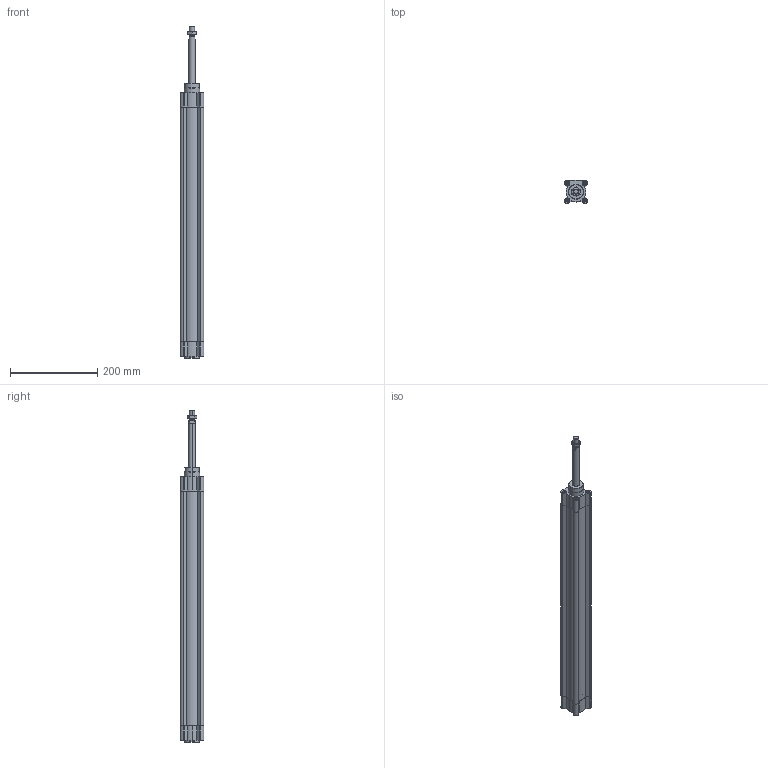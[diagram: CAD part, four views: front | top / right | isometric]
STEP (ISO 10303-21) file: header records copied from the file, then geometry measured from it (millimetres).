
FILE_DESCRIPTION (( 'STEP AP203' ), '1' );
FILE_NAME ('CPME40-500-PH100.STEP', '2023-10-06T13:56:52', ( '' ), ( '' ), 'SwSTEP 2.0', 'SolidWorks 2019', '' );
FILE_SCHEMA (( 'CONFIG_CONTROL_DESIGN' ));
Length unit declared in the file: millimetre
Products named in the file (1): CPME40-500-PH100
Bounding box: 54 x 54 x 761.9 mm (x, y, z)
Volume: 804626.3 mm3; surface area: 283643.7 mm2
Topology: 3 solids, 3 shells, 629 faces, 1625 edges, 1030 vertices
Faces by surface type: plane 319, cylinder 196, cone 106, torus 8
Entity records: 19673 total; most frequent: CARTESIAN_POINT 4365, ORIENTED_EDGE 3218, DIRECTION 3129, EDGE_CURVE 1609, AXIS2_PLACEMENT_3D 1113, VERTEX_POINT 1030, VECTOR 903, LINE 903
